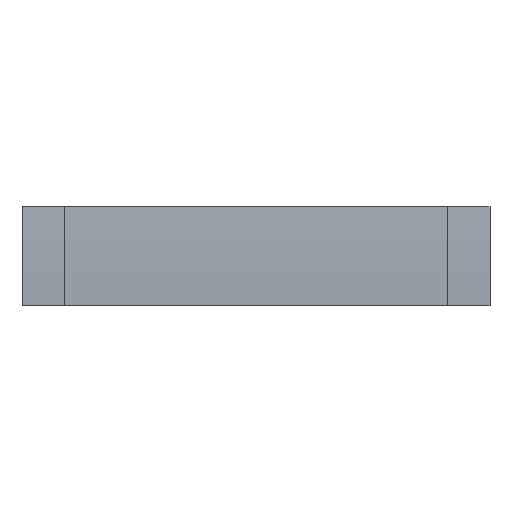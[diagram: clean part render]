
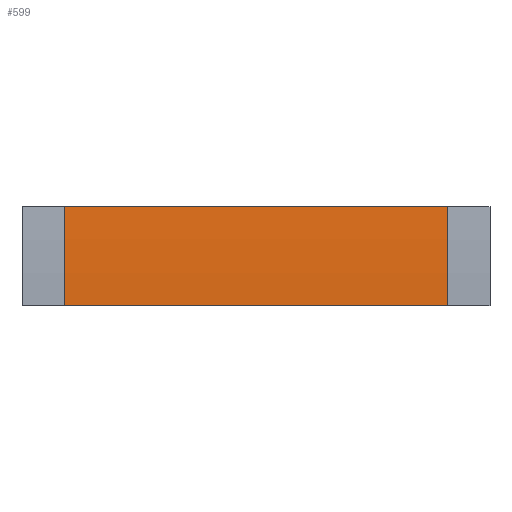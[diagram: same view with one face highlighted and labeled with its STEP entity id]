
A CAD part, front view. The second image highlights one B-rep face of the part: STEP entity #599.
In plain terms, the highlighted cylindrical face has radius 568 mm (diameter 1136 mm), a partial arc.
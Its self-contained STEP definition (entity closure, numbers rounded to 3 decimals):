
#96 = CARTESIAN_POINT ( 'NONE',  ( 95.25, -65.839, 49.504 ) ) ;
#98 = CARTESIAN_POINT ( 'NONE',  ( -95.25, -65.839, 49.504 ) ) ;
#104 = CARTESIAN_POINT ( 'NONE',  ( 95.25, -68., 0. ) ) ;
#106 = CARTESIAN_POINT ( 'NONE',  ( -95.25, -68., 0. ) ) ;
#207 = FACE_OUTER_BOUND ( 'NONE', #792, .T. ) ;
#212 = CYLINDRICAL_SURFACE ( 'NONE', #762, 568. ) ;
#247 = CIRCLE ( 'NONE', #684, 568. ) ;
#252 = LINE ( 'NONE', #533, #259 ) ;
#255 = CIRCLE ( 'NONE', #685, 568. ) ;
#258 = LINE ( 'NONE', #518, #261 ) ;
#259 = VECTOR ( 'NONE', #505, 1000. ) ;
#261 = VECTOR ( 'NONE', #520, 1000. ) ;
#422 = DIRECTION ( 'NONE',  ( 0., 0., -1. ) ) ;
#424 = DIRECTION ( 'NONE',  ( 1., 0., 0. ) ) ;
#425 = CARTESIAN_POINT ( 'NONE',  ( 0., 500., 0. ) ) ;
#478 = CARTESIAN_POINT ( 'NONE',  ( -95.25, 500., 0. ) ) ;
#505 = DIRECTION ( 'NONE',  ( 1., 0., 0. ) ) ;
#518 = CARTESIAN_POINT ( 'NONE',  ( -95.25, -68., 0. ) ) ;
#519 = DIRECTION ( 'NONE',  ( 0., 0., -1. ) ) ;
#520 = DIRECTION ( 'NONE',  ( 1., 0., 0. ) ) ;
#527 = DIRECTION ( 'NONE',  ( 0., 0., -1. ) ) ;
#528 = DIRECTION ( 'NONE',  ( 1., 0., 0. ) ) ;
#531 = DIRECTION ( 'NONE',  ( 1., 0., 0. ) ) ;
#532 = CARTESIAN_POINT ( 'NONE',  ( 95.25, 500., 0. ) ) ;
#533 = CARTESIAN_POINT ( 'NONE',  ( -95.25, -65.839, 49.504 ) ) ;
#599 = ADVANCED_FACE ( 'NONE', ( #207 ), #212, .T. ) ;
#627 = EDGE_CURVE ( 'NONE', #984, #977, #247, .T. ) ;
#630 = EDGE_CURVE ( 'NONE', #986, #979, #255, .T. ) ;
#631 = EDGE_CURVE ( 'NONE', #984, #986, #252, .T. ) ;
#632 = EDGE_CURVE ( 'NONE', #977, #979, #258, .T. ) ;
#684 = AXIS2_PLACEMENT_3D ( 'NONE', #478, #528, #527 ) ;
#685 = AXIS2_PLACEMENT_3D ( 'NONE', #532, #531, #519 ) ;
#762 = AXIS2_PLACEMENT_3D ( 'NONE', #425, #424, #422 ) ;
#792 = EDGE_LOOP ( 'NONE', ( #829, #830, #831, #832 ) ) ;
#829 = ORIENTED_EDGE ( 'NONE', *, *, #630, .F. ) ;
#830 = ORIENTED_EDGE ( 'NONE', *, *, #631, .F. ) ;
#831 = ORIENTED_EDGE ( 'NONE', *, *, #627, .T. ) ;
#832 = ORIENTED_EDGE ( 'NONE', *, *, #632, .T. ) ;
#977 = VERTEX_POINT ( 'NONE', #106 ) ;
#979 = VERTEX_POINT ( 'NONE', #104 ) ;
#984 = VERTEX_POINT ( 'NONE', #98 ) ;
#986 = VERTEX_POINT ( 'NONE', #96 ) ;
